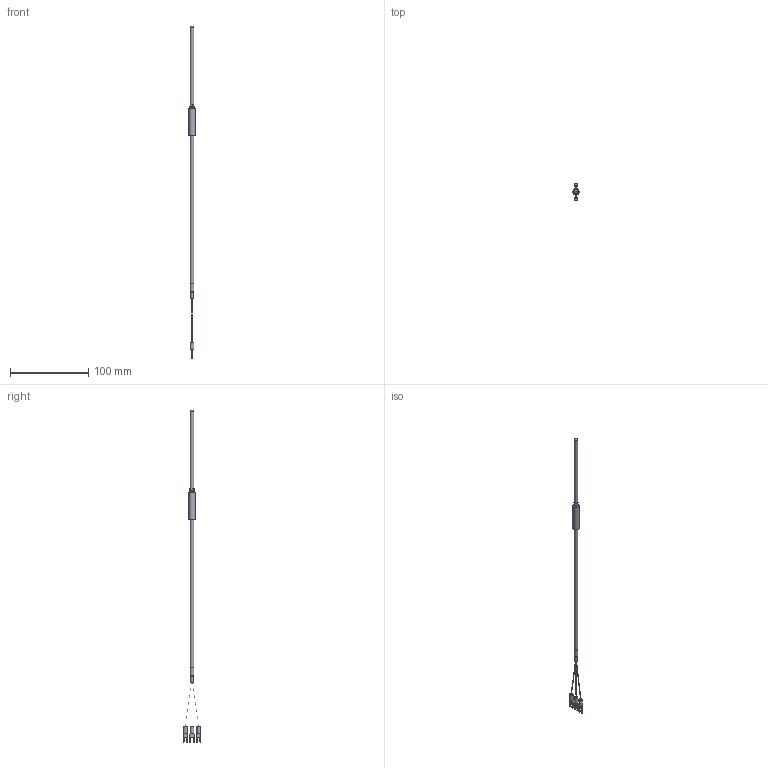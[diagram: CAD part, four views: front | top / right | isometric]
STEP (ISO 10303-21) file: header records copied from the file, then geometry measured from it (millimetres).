
FILE_DESCRIPTION (( 'STEP AP203' ), '1' );
FILE_NAME ('YIR101S-2(0).STEP', '2024-07-25T07:35:29', ( '' ), ( '' ), 'SwSTEP 2.0', 'SolidWorks 2021', '' );
FILE_SCHEMA (( 'CONFIG_CONTROL_DESIGN' ));
Length unit declared in the file: millimetre
Products named in the file (1): YIR101S-2(0)
Bounding box: 8 x 22.96 x 424.72 mm (x, y, z)
Volume: 7945.4 mm3; surface area: 6728.9 mm2
Topology: 1 solids, 1 shells, 88 faces, 217 edges, 142 vertices
Faces by surface type: plane 46, cylinder 30, bspline 8, cone 3, torus 1
Full cylindrical faces by diameter (mm): 0.5 x1, 3.16 x1, 4.5 x3, 4.8 x2, 5 x1, 8 x1
Entity records: 2757 total; most frequent: CARTESIAN_POINT 671, DIRECTION 412, ORIENTED_EDGE 394, EDGE_CURVE 197, AXIS2_PLACEMENT_3D 146, VERTEX_POINT 137, LINE 120, VECTOR 120
